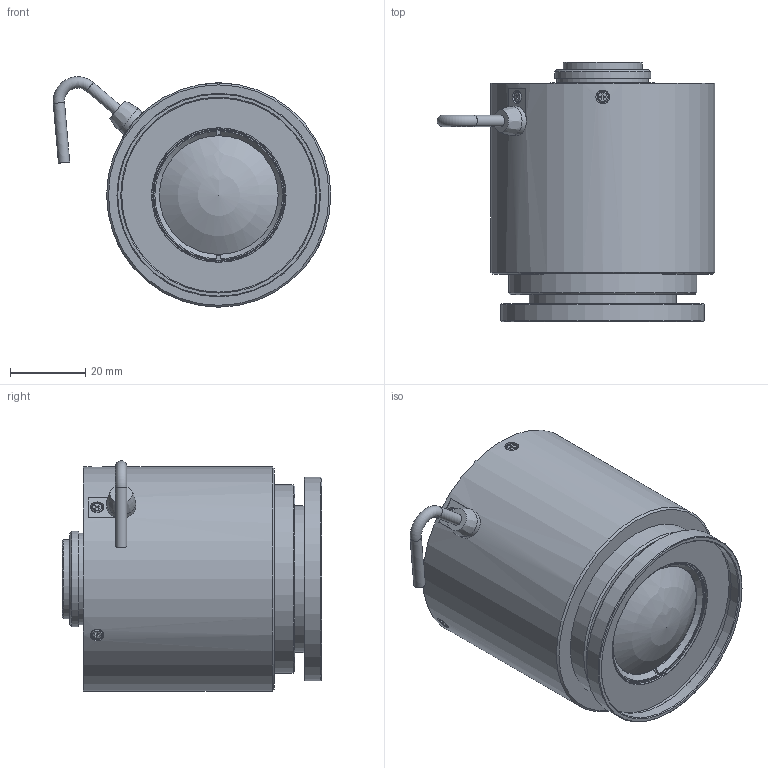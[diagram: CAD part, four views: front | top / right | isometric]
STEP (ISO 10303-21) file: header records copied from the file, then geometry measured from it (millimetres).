
FILE_DESCRIPTION(('STEP AP214'),'1');
FILE_NAME('DL0828UC-MPY.stp','2023-08-24T06:34:44',(' '),(' '),'Spatial InterOp 3D',' ',' ');
FILE_SCHEMA(('AUTOMOTIVE_DESIGN { 1 0 10303 214 1 1 1 1 }'));
Length unit declared in the file: metre
Products named in the file (2): DL0828UC-MPY; Component1
Assembly tree (1 placements, depth 2):
  DL0828UC-MPY
    Component1
Bounding box: 73.69 x 68.83 x 61.13 mm (x, y, z)
Volume: 159512.5 mm3; surface area: 21205 mm2
Topology: 1 solids, 6 shells, 286 faces, 679 edges, 445 vertices
Faces by surface type: plane 196, cylinder 55, cone 23, torus 9, sphere 2, bspline 1
Full cylindrical faces by diameter (mm): 1 x2, 2 x4, 2.2 x4, 3 x10, 3.6 x4, 3.8 x4, 7.699 x1, 13 x1, 13.574 x1, 21 x1, 24.3 x1, 25.4 x1, 29 x1, 31.5 x1, 35.6 x1, 39 x1, 50 x1, 51.5 x1, 52 x1, 54 x1, 59.5 x1
Entity records: 13135 total; most frequent: CARTESIAN_POINT 1574, DIRECTION 1271, ORIENTED_EDGE 1170, STYLED_ITEM 872, PRESENTATION_STYLE_ASSIGNMENT 872, COLOUR_RGB 872, EDGE_CURVE 585, CURVE_STYLE 585
